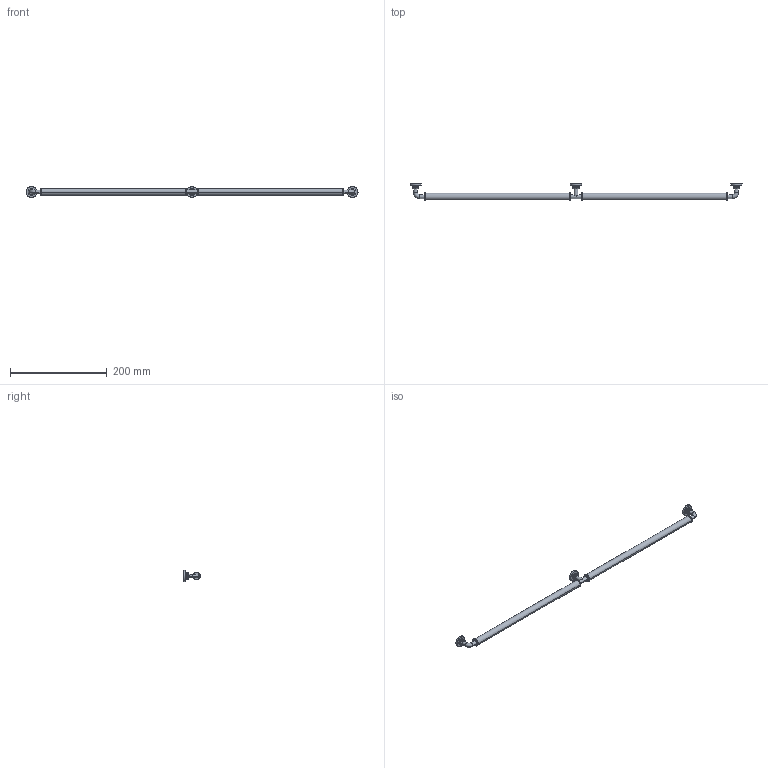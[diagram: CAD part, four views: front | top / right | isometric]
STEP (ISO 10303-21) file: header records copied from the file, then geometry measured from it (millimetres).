
FILE_DESCRIPTION( ( '' ), '1' );
FILE_NAME( 'D:/1.AUTOCAD EXPORT/Group 10/sheet_10_1/9132277.stp', '2013-10-21T06:38:29', ( '' ), ( '' ), ' ', ' ', ' ' );
FILE_SCHEMA( ( 'automotive_design' ) );
Length unit declared in the file: millimetre
Products named in the file (1): 1
Bounding box: 688 x 35 x 23 mm (x, y, z)
Volume: 105548.8 mm3; surface area: 34162 mm2
Topology: 1 solids, 1 shells, 138 faces, 329 edges, 199 vertices
Faces by surface type: torus 62, cone 36, cylinder 28, plane 12
Entity records: 7923 total; most frequent: DIRECTION 863, CARTESIAN_POINT 745, STYLED_ITEM 667, PRESENTATION_STYLE_ASSIGNMENT 667, COLOUR_RGB 667, ORIENTED_EDGE 658, AXIS2_PLACEMENT_3D 399, EDGE_CURVE 329
